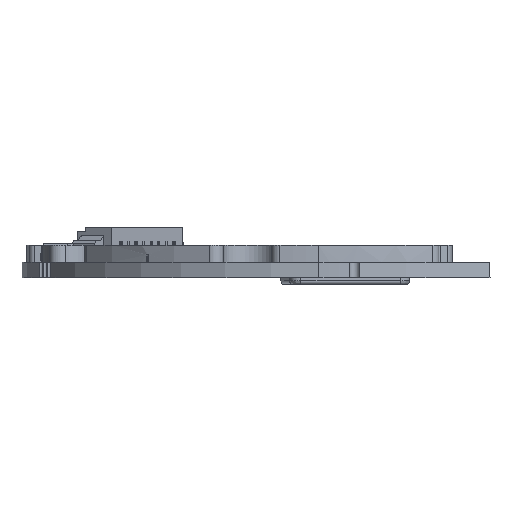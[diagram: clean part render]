
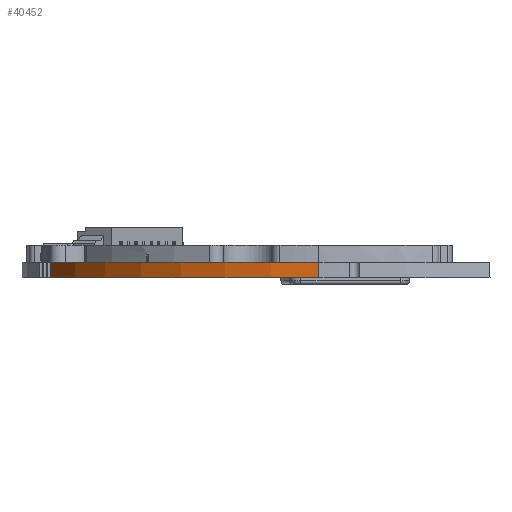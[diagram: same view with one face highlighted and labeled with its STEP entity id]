
A CAD part, left-side view. The second image highlights one B-rep face of the part: STEP entity #40452.
In plain terms, the highlighted cylindrical face has radius 29.5 mm (diameter 59 mm), a partial arc.
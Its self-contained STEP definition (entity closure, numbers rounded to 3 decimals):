
#71 = DIRECTION ( 'NONE',  ( 0., 0., 1. ) ) ;
#906 = ORIENTED_EDGE ( 'NONE', *, *, #10635, .T. ) ;
#3847 = EDGE_LOOP ( 'NONE', ( #20827, #34689, #12148, #906 ) ) ;
#4689 = VERTEX_POINT ( 'NONE', #11446 ) ;
#6662 = CARTESIAN_POINT ( 'NONE',  ( -12.66, 26.59, -1.561 ) ) ;
#6825 = VERTEX_POINT ( 'NONE', #12956 ) ;
#8560 = VERTEX_POINT ( 'NONE', #24328 ) ;
#10635 = EDGE_CURVE ( 'NONE', #11345, #6825, #36604, .T. ) ;
#11345 = VERTEX_POINT ( 'NONE', #6662 ) ;
#11446 = CARTESIAN_POINT ( 'NONE',  ( -12.66, 26.59, 0. ) ) ;
#12148 = ORIENTED_EDGE ( 'NONE', *, *, #18083, .T. ) ;
#12956 = CARTESIAN_POINT ( 'NONE',  ( -29.471, -0.042, -1.561 ) ) ;
#13220 = DIRECTION ( 'NONE',  ( 0., 0., -1. ) ) ;
#14365 = CARTESIAN_POINT ( 'NONE',  ( -29.471, -0.042, -1.562 ) ) ;
#15149 = DIRECTION ( 'NONE',  ( -1., 0., 0. ) ) ;
#16649 = LINE ( 'NONE', #46816, #37802 ) ;
#17522 = CARTESIAN_POINT ( 'NONE',  ( 0.029, -0.042, -1.561 ) ) ;
#18083 = EDGE_CURVE ( 'NONE', #4689, #11345, #16649, .T. ) ;
#18154 = AXIS2_PLACEMENT_3D ( 'NONE', #37622, #71, #15149 ) ;
#20827 = ORIENTED_EDGE ( 'NONE', *, *, #38481, .F. ) ;
#22498 = LINE ( 'NONE', #14365, #22890 ) ;
#22890 = VECTOR ( 'NONE', #25947, 1000. ) ;
#24328 = CARTESIAN_POINT ( 'NONE',  ( -29.471, -0.042, 0. ) ) ;
#24351 = CYLINDRICAL_SURFACE ( 'NONE', #41316, 29.5 ) ;
#25947 = DIRECTION ( 'NONE',  ( 0., 0., -1. ) ) ;
#27307 = DIRECTION ( 'NONE',  ( -1., 0., 0. ) ) ;
#33178 = CIRCLE ( 'NONE', #18154, 29.5 ) ;
#34689 = ORIENTED_EDGE ( 'NONE', *, *, #46329, .F. ) ;
#36604 = CIRCLE ( 'NONE', #43711, 29.5 ) ;
#37622 = CARTESIAN_POINT ( 'NONE',  ( 0.029, -0.042, 0. ) ) ;
#37802 = VECTOR ( 'NONE', #48032, 1000. ) ;
#38481 = EDGE_CURVE ( 'NONE', #8560, #6825, #22498, .T. ) ;
#40037 = DIRECTION ( 'NONE',  ( -1., 0., 0. ) ) ;
#40452 = ADVANCED_FACE ( 'NONE', ( #43402 ), #24351, .T. ) ;
#40531 = DIRECTION ( 'NONE',  ( 0., 0., 1. ) ) ;
#41316 = AXIS2_PLACEMENT_3D ( 'NONE', #46387, #13220, #27307 ) ;
#43402 = FACE_OUTER_BOUND ( 'NONE', #3847, .T. ) ;
#43711 = AXIS2_PLACEMENT_3D ( 'NONE', #17522, #40531, #40037 ) ;
#46329 = EDGE_CURVE ( 'NONE', #4689, #8560, #33178, .T. ) ;
#46387 = CARTESIAN_POINT ( 'NONE',  ( 0.029, -0.042, -1.562 ) ) ;
#46816 = CARTESIAN_POINT ( 'NONE',  ( -12.66, 26.59, -1.562 ) ) ;
#48032 = DIRECTION ( 'NONE',  ( 0., 0., -1. ) ) ;
